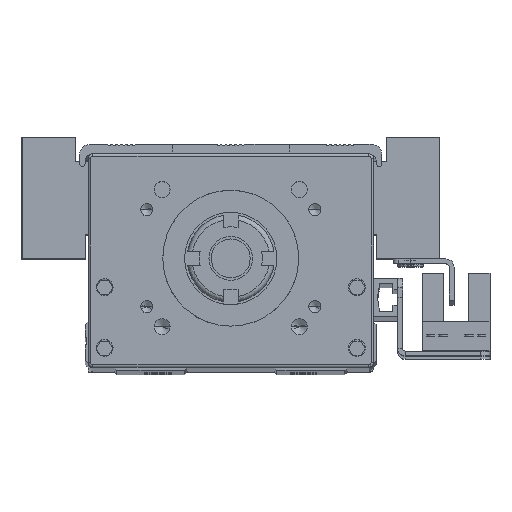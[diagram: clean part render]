
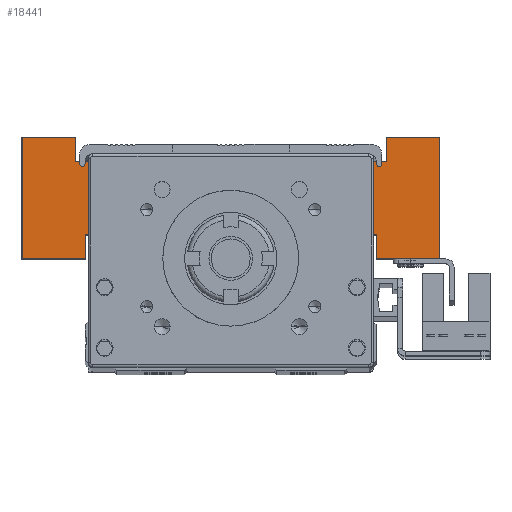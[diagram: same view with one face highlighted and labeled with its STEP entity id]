
A CAD part, top view. The second image highlights one B-rep face of the part: STEP entity #18441.
In plain terms, the highlighted planar face has unit normal (0, 0, 1) as drawn and (0, 1, 0) by its records, which use the part's own axes.
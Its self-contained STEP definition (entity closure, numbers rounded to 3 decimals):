
#391 = EDGE_CURVE ( 'NONE', #72950, #41700, #22303, .T. ) ;
#650 = EDGE_CURVE ( 'NONE', #49980, #28940, #65206, .T. ) ;
#863 = VECTOR ( 'NONE', #8923, 1000. ) ;
#1212 = CARTESIAN_POINT ( 'NONE',  ( 22.085, 18.194, 60.1 ) ) ;
#1725 = CARTESIAN_POINT ( 'NONE',  ( -39.915, 18.194, 85.1 ) ) ;
#1881 = VECTOR ( 'NONE', #52815, 1000. ) ;
#2051 = LINE ( 'NONE', #9232, #62776 ) ;
#2336 = VERTEX_POINT ( 'NONE', #45811 ) ;
#2526 = VERTEX_POINT ( 'NONE', #70035 ) ;
#3368 = ORIENTED_EDGE ( 'NONE', *, *, #8776, .F. ) ;
#4275 = CARTESIAN_POINT ( 'NONE',  ( 13.085, 18.194, 70.1 ) ) ;
#5304 = LINE ( 'NONE', #68297, #66870 ) ;
#5867 = ORIENTED_EDGE ( 'NONE', *, *, #71364, .F. ) ;
#6869 = AXIS2_PLACEMENT_3D ( 'NONE', #46003, #22001, #51488 ) ;
#7087 = VERTEX_POINT ( 'NONE', #10488 ) ;
#7505 = DIRECTION ( 'NONE',  ( 0., 0., -1. ) ) ;
#7642 = VECTOR ( 'NONE', #29881, 1000. ) ;
#7733 = FACE_OUTER_BOUND ( 'NONE', #37334, .T. ) ;
#8776 = EDGE_CURVE ( 'NONE', #49734, #2526, #63432, .T. ) ;
#8867 = DIRECTION ( 'NONE',  ( 0., 0., 1. ) ) ;
#8923 = DIRECTION ( 'NONE',  ( 0., 0., 1. ) ) ;
#9232 = CARTESIAN_POINT ( 'NONE',  ( -50.915, 18.194, 60.1 ) ) ;
#10041 = LINE ( 'NONE', #1725, #47386 ) ;
#10488 = CARTESIAN_POINT ( 'NONE',  ( -37.915, 18.194, 65.1 ) ) ;
#12062 = LINE ( 'NONE', #73144, #26014 ) ;
#12068 = VECTOR ( 'NONE', #35927, 1000. ) ;
#12632 = ORIENTED_EDGE ( 'NONE', *, *, #391, .F. ) ;
#13579 = ORIENTED_EDGE ( 'NONE', *, *, #66894, .F. ) ;
#14289 = CARTESIAN_POINT ( 'NONE',  ( 35.085, 18.194, 60.1 ) ) ;
#14377 = ORIENTED_EDGE ( 'NONE', *, *, #30961, .F. ) ;
#15331 = LINE ( 'NONE', #25459, #52641 ) ;
#15758 = DIRECTION ( 'NONE',  ( 0., 0., -1. ) ) ;
#15962 = CARTESIAN_POINT ( 'NONE',  ( -50.915, 18.194, 85.1 ) ) ;
#16041 = LINE ( 'NONE', #71397, #7642 ) ;
#16071 = ORIENTED_EDGE ( 'NONE', *, *, #69736, .F. ) ;
#17814 = CARTESIAN_POINT ( 'NONE',  ( 13.085, 18.194, 65.1 ) ) ;
#18014 = VECTOR ( 'NONE', #41042, 1000. ) ;
#18441 = ADVANCED_FACE ( 'NONE', ( #7733 ), #38909, .F. ) ;
#18890 = ORIENTED_EDGE ( 'NONE', *, *, #650, .F. ) ;
#20050 = EDGE_CURVE ( 'NONE', #66693, #63481, #15331, .T. ) ;
#20724 = DIRECTION ( 'NONE',  ( 0., 0., 1. ) ) ;
#21948 = DIRECTION ( 'NONE',  ( -1., 0., 0. ) ) ;
#22001 = DIRECTION ( 'NONE',  ( 0., -1., 0. ) ) ;
#22303 = LINE ( 'NONE', #4275, #35309 ) ;
#25459 = CARTESIAN_POINT ( 'NONE',  ( 22.085, 18.194, 65.1 ) ) ;
#25576 = ORIENTED_EDGE ( 'NONE', *, *, #72148, .F. ) ;
#26014 = VECTOR ( 'NONE', #42824, 1000. ) ;
#26127 = ORIENTED_EDGE ( 'NONE', *, *, #51934, .F. ) ;
#27150 = ORIENTED_EDGE ( 'NONE', *, *, #54606, .F. ) ;
#27316 = ORIENTED_EDGE ( 'NONE', *, *, #20050, .F. ) ;
#28569 = VERTEX_POINT ( 'NONE', #45536 ) ;
#28940 = VERTEX_POINT ( 'NONE', #72861 ) ;
#29507 = CARTESIAN_POINT ( 'NONE',  ( -39.915, 18.194, 85.1 ) ) ;
#29881 = DIRECTION ( 'NONE',  ( 1., 0., 0. ) ) ;
#30884 = VECTOR ( 'NONE', #54570, 1000. ) ;
#30961 = EDGE_CURVE ( 'NONE', #35648, #57012, #56004, .T. ) ;
#30989 = ORIENTED_EDGE ( 'NONE', *, *, #57769, .F. ) ;
#32006 = ORIENTED_EDGE ( 'NONE', *, *, #48911, .F. ) ;
#32693 = CARTESIAN_POINT ( 'NONE',  ( -39.915, 18.194, 80.1 ) ) ;
#32763 = LINE ( 'NONE', #17814, #30884 ) ;
#33792 = VERTEX_POINT ( 'NONE', #32693 ) ;
#33827 = LINE ( 'NONE', #58849, #18014 ) ;
#33910 = DIRECTION ( 'NONE',  ( 0., 0., -1. ) ) ;
#35309 = VECTOR ( 'NONE', #33910, 1000. ) ;
#35463 = CARTESIAN_POINT ( 'NONE',  ( 13.085, 18.194, 65.1 ) ) ;
#35648 = VERTEX_POINT ( 'NONE', #70829 ) ;
#35927 = DIRECTION ( 'NONE',  ( 1., 0., 0. ) ) ;
#37334 = EDGE_LOOP ( 'NONE', ( #30989, #14377, #71143, #65757, #27316, #27150, #12632, #25576, #3368, #51117, #32006, #18890, #13579, #5867, #26127, #16071 ) ) ;
#38909 = PLANE ( 'NONE',  #6869 ) ;
#39806 = DIRECTION ( 'NONE',  ( -1., 0., 0. ) ) ;
#40076 = VECTOR ( 'NONE', #39806, 1000. ) ;
#41042 = DIRECTION ( 'NONE',  ( 1., 0., 0. ) ) ;
#41700 = VERTEX_POINT ( 'NONE', #35463 ) ;
#41705 = CARTESIAN_POINT ( 'NONE',  ( -28.915, 18.194, 65.1 ) ) ;
#41960 = CARTESIAN_POINT ( 'NONE',  ( -28.915, 18.194, 65.1 ) ) ;
#42824 = DIRECTION ( 'NONE',  ( 0., 0., -1. ) ) ;
#45536 = CARTESIAN_POINT ( 'NONE',  ( 35.085, 18.194, 60.1 ) ) ;
#45811 = CARTESIAN_POINT ( 'NONE',  ( -50.915, 18.194, 85.1 ) ) ;
#46003 = CARTESIAN_POINT ( 'NONE',  ( -7.915, 18.194, 70.1 ) ) ;
#46856 = CARTESIAN_POINT ( 'NONE',  ( -39.915, 18.194, 80.1 ) ) ;
#47386 = VECTOR ( 'NONE', #20724, 1000. ) ;
#48321 = LINE ( 'NONE', #14289, #68745 ) ;
#48830 = EDGE_CURVE ( 'NONE', #28569, #35648, #48321, .T. ) ;
#48911 = EDGE_CURVE ( 'NONE', #28940, #7087, #5304, .T. ) ;
#49734 = VERTEX_POINT ( 'NONE', #41705 ) ;
#49980 = VERTEX_POINT ( 'NONE', #67278 ) ;
#51117 = ORIENTED_EDGE ( 'NONE', *, *, #62341, .F. ) ;
#51290 = LINE ( 'NONE', #41960, #12068 ) ;
#51488 = DIRECTION ( 'NONE',  ( 1., 0., 0. ) ) ;
#51934 = EDGE_CURVE ( 'NONE', #33792, #52731, #10041, .T. ) ;
#52472 = CARTESIAN_POINT ( 'NONE',  ( 24.085, 18.194, 85.1 ) ) ;
#52641 = VECTOR ( 'NONE', #7505, 1000. ) ;
#52731 = VERTEX_POINT ( 'NONE', #29507 ) ;
#52815 = DIRECTION ( 'NONE',  ( -1., 0., 0. ) ) ;
#54570 = DIRECTION ( 'NONE',  ( 1., 0., 0. ) ) ;
#54606 = EDGE_CURVE ( 'NONE', #41700, #66693, #32763, .T. ) ;
#55448 = VECTOR ( 'NONE', #21948, 1000. ) ;
#56004 = LINE ( 'NONE', #58398, #40076 ) ;
#56056 = DIRECTION ( 'NONE',  ( 0., 0., 1. ) ) ;
#56657 = CARTESIAN_POINT ( 'NONE',  ( 13.085, 18.194, 70.1 ) ) ;
#57012 = VERTEX_POINT ( 'NONE', #52472 ) ;
#57769 = EDGE_CURVE ( 'NONE', #57012, #68840, #12062, .T. ) ;
#57915 = CARTESIAN_POINT ( 'NONE',  ( 24.085, 18.194, 80.1 ) ) ;
#58398 = CARTESIAN_POINT ( 'NONE',  ( 35.085, 18.194, 85.1 ) ) ;
#58849 = CARTESIAN_POINT ( 'NONE',  ( 22.085, 18.194, 60.1 ) ) ;
#62341 = EDGE_CURVE ( 'NONE', #7087, #49734, #51290, .T. ) ;
#62776 = VECTOR ( 'NONE', #15758, 1000. ) ;
#63363 = VECTOR ( 'NONE', #72287, 1000. ) ;
#63432 = LINE ( 'NONE', #74627, #863 ) ;
#63481 = VERTEX_POINT ( 'NONE', #1212 ) ;
#65206 = LINE ( 'NONE', #72027, #63363 ) ;
#65757 = ORIENTED_EDGE ( 'NONE', *, *, #66243, .F. ) ;
#66243 = EDGE_CURVE ( 'NONE', #63481, #28569, #33827, .T. ) ;
#66693 = VERTEX_POINT ( 'NONE', #73924 ) ;
#66870 = VECTOR ( 'NONE', #8867, 1000. ) ;
#66894 = EDGE_CURVE ( 'NONE', #2336, #49980, #2051, .T. ) ;
#67181 = LINE ( 'NONE', #46856, #1881 ) ;
#67278 = CARTESIAN_POINT ( 'NONE',  ( -50.915, 18.194, 60.1 ) ) ;
#68297 = CARTESIAN_POINT ( 'NONE',  ( -37.915, 18.194, 65.1 ) ) ;
#68552 = LINE ( 'NONE', #15962, #55448 ) ;
#68745 = VECTOR ( 'NONE', #56056, 1000. ) ;
#68840 = VERTEX_POINT ( 'NONE', #57915 ) ;
#69736 = EDGE_CURVE ( 'NONE', #68840, #33792, #67181, .T. ) ;
#70035 = CARTESIAN_POINT ( 'NONE',  ( -28.915, 18.194, 70.1 ) ) ;
#70829 = CARTESIAN_POINT ( 'NONE',  ( 35.085, 18.194, 85.1 ) ) ;
#71143 = ORIENTED_EDGE ( 'NONE', *, *, #48830, .F. ) ;
#71364 = EDGE_CURVE ( 'NONE', #52731, #2336, #68552, .T. ) ;
#71397 = CARTESIAN_POINT ( 'NONE',  ( 13.085, 18.194, 70.1 ) ) ;
#72027 = CARTESIAN_POINT ( 'NONE',  ( -37.915, 18.194, 60.1 ) ) ;
#72148 = EDGE_CURVE ( 'NONE', #2526, #72950, #16041, .T. ) ;
#72287 = DIRECTION ( 'NONE',  ( 1., 0., 0. ) ) ;
#72861 = CARTESIAN_POINT ( 'NONE',  ( -37.915, 18.194, 60.1 ) ) ;
#72950 = VERTEX_POINT ( 'NONE', #56657 ) ;
#73144 = CARTESIAN_POINT ( 'NONE',  ( 24.085, 18.194, 85.1 ) ) ;
#73924 = CARTESIAN_POINT ( 'NONE',  ( 22.085, 18.194, 65.1 ) ) ;
#74627 = CARTESIAN_POINT ( 'NONE',  ( -28.915, 18.194, 70.1 ) ) ;
